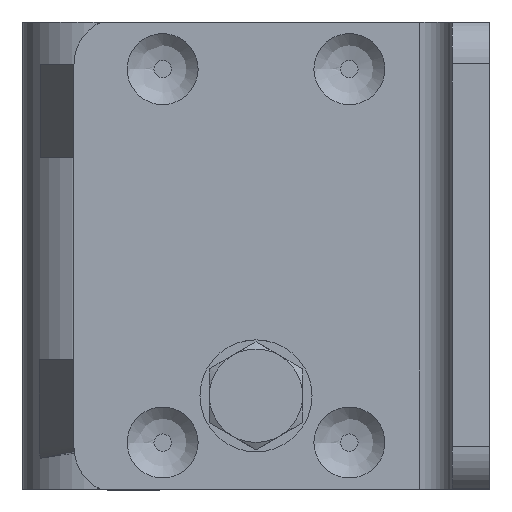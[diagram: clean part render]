
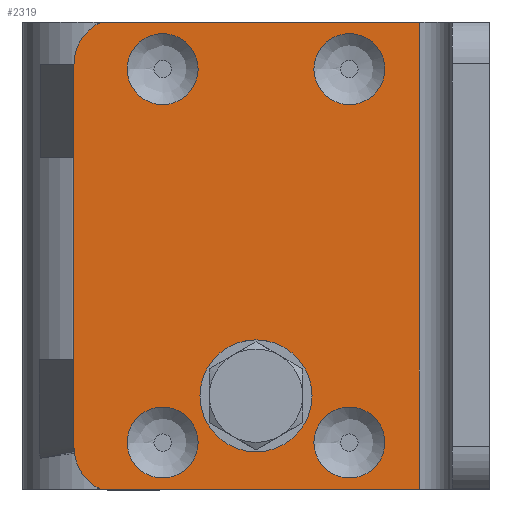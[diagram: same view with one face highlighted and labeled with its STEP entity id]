
A CAD part, top view. The second image highlights one B-rep face of the part: STEP entity #2319.
In plain terms, the highlighted planar face has unit normal (0, 0, 1).
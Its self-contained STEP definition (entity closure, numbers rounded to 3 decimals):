
#48=FACE_BOUND('',#391,.T.);
#49=FACE_BOUND('',#392,.T.);
#50=FACE_BOUND('',#393,.T.);
#51=FACE_BOUND('',#394,.T.);
#52=FACE_BOUND('',#395,.T.);
#234=FACE_OUTER_BOUND('',#390,.T.);
#390=EDGE_LOOP('',(#1700,#1701,#1702,#1703,#1704,#1705));
#391=EDGE_LOOP('',(#1706,#1707));
#392=EDGE_LOOP('',(#1708,#1709));
#393=EDGE_LOOP('',(#1710,#1711));
#394=EDGE_LOOP('',(#1712,#1713));
#395=EDGE_LOOP('',(#1714));
#572=CIRCLE('',#2491,3.8);
#573=CIRCLE('',#2492,3.8);
#575=CIRCLE('',#2495,3.8);
#576=CIRCLE('',#2496,3.8);
#578=CIRCLE('',#2499,3.8);
#579=CIRCLE('',#2500,3.8);
#581=CIRCLE('',#2503,3.8);
#582=CIRCLE('',#2504,3.8);
#588=CIRCLE('',#2517,5.);
#589=CIRCLE('',#2518,5.);
#590=CIRCLE('',#2519,6.);
#693=LINE('',#4040,#871);
#697=LINE('',#4047,#875);
#698=LINE('',#4052,#876);
#699=LINE('',#4055,#877);
#871=VECTOR('',#2894,50.);
#875=VECTOR('',#2900,34.179);
#876=VECTOR('',#2905,41.);
#877=VECTOR('',#2908,34.179);
#1060=VERTEX_POINT('',#3897);
#1061=VERTEX_POINT('',#3898);
#1063=VERTEX_POINT('',#3934);
#1064=VERTEX_POINT('',#3935);
#1066=VERTEX_POINT('',#3971);
#1067=VERTEX_POINT('',#3972);
#1069=VERTEX_POINT('',#4008);
#1070=VERTEX_POINT('',#4009);
#1075=VERTEX_POINT('',#4024);
#1078=VERTEX_POINT('',#4031);
#1081=VERTEX_POINT('',#4045);
#1082=VERTEX_POINT('',#4049);
#1083=VERTEX_POINT('',#4051);
#1084=VERTEX_POINT('',#4053);
#1085=VERTEX_POINT('',#4056);
#1283=EDGE_CURVE('',#1060,#1061,#572,.T.);
#1284=EDGE_CURVE('',#1061,#1060,#573,.T.);
#1287=EDGE_CURVE('',#1063,#1064,#575,.T.);
#1288=EDGE_CURVE('',#1064,#1063,#576,.T.);
#1291=EDGE_CURVE('',#1066,#1067,#578,.T.);
#1292=EDGE_CURVE('',#1067,#1066,#579,.T.);
#1295=EDGE_CURVE('',#1069,#1070,#581,.T.);
#1296=EDGE_CURVE('',#1070,#1069,#582,.T.);
#1309=EDGE_CURVE('',#1075,#1078,#693,.T.);
#1313=EDGE_CURVE('',#1078,#1081,#697,.T.);
#1314=EDGE_CURVE('',#1081,#1082,#588,.T.);
#1315=EDGE_CURVE('',#1082,#1083,#698,.T.);
#1316=EDGE_CURVE('',#1083,#1084,#589,.T.);
#1317=EDGE_CURVE('',#1084,#1075,#699,.T.);
#1318=EDGE_CURVE('',#1085,#1085,#590,.T.);
#1700=ORIENTED_EDGE('',*,*,#1309,.T.);
#1701=ORIENTED_EDGE('',*,*,#1313,.T.);
#1702=ORIENTED_EDGE('',*,*,#1314,.T.);
#1703=ORIENTED_EDGE('',*,*,#1315,.T.);
#1704=ORIENTED_EDGE('',*,*,#1316,.T.);
#1705=ORIENTED_EDGE('',*,*,#1317,.T.);
#1706=ORIENTED_EDGE('',*,*,#1287,.T.);
#1707=ORIENTED_EDGE('',*,*,#1288,.T.);
#1708=ORIENTED_EDGE('',*,*,#1283,.T.);
#1709=ORIENTED_EDGE('',*,*,#1284,.T.);
#1710=ORIENTED_EDGE('',*,*,#1291,.T.);
#1711=ORIENTED_EDGE('',*,*,#1292,.T.);
#1712=ORIENTED_EDGE('',*,*,#1295,.T.);
#1713=ORIENTED_EDGE('',*,*,#1296,.T.);
#1714=ORIENTED_EDGE('',*,*,#1318,.T.);
#2204=PLANE('',#2516);
#2319=ADVANCED_FACE('',(#234,#48,#49,#50,#51,#52),#2204,.T.);
#2491=AXIS2_PLACEMENT_3D('',#3899,#2840,#2841);
#2492=AXIS2_PLACEMENT_3D('',#3900,#2842,#2843);
#2495=AXIS2_PLACEMENT_3D('',#3936,#2848,#2849);
#2496=AXIS2_PLACEMENT_3D('',#3937,#2850,#2851);
#2499=AXIS2_PLACEMENT_3D('',#3973,#2856,#2857);
#2500=AXIS2_PLACEMENT_3D('',#3974,#2858,#2859);
#2503=AXIS2_PLACEMENT_3D('',#4010,#2864,#2865);
#2504=AXIS2_PLACEMENT_3D('',#4011,#2866,#2867);
#2516=AXIS2_PLACEMENT_3D('',#4048,#2901,#2902);
#2517=AXIS2_PLACEMENT_3D('',#4050,#2903,#2904);
#2518=AXIS2_PLACEMENT_3D('',#4054,#2906,#2907);
#2519=AXIS2_PLACEMENT_3D('',#4057,#2909,#2910);
#2840=DIRECTION('center_axis',(0.,0.,-1.));
#2841=DIRECTION('ref_axis',(-1.,0.,0.));
#2842=DIRECTION('center_axis',(0.,0.,-1.));
#2843=DIRECTION('ref_axis',(-1.,0.,0.));
#2848=DIRECTION('center_axis',(0.,0.,-1.));
#2849=DIRECTION('ref_axis',(-1.,0.,0.));
#2850=DIRECTION('center_axis',(0.,0.,-1.));
#2851=DIRECTION('ref_axis',(-1.,0.,0.));
#2856=DIRECTION('center_axis',(0.,0.,-1.));
#2857=DIRECTION('ref_axis',(-1.,0.,0.));
#2858=DIRECTION('center_axis',(0.,0.,-1.));
#2859=DIRECTION('ref_axis',(-1.,0.,0.));
#2864=DIRECTION('center_axis',(0.,0.,-1.));
#2865=DIRECTION('ref_axis',(-1.,0.,0.));
#2866=DIRECTION('center_axis',(0.,0.,-1.));
#2867=DIRECTION('ref_axis',(-1.,0.,0.));
#2894=DIRECTION('',(0.,1.,0.));
#2900=DIRECTION('',(-1.,0.,0.));
#2901=DIRECTION('center_axis',(0.,0.,1.));
#2902=DIRECTION('ref_axis',(1.,0.,0.));
#2903=DIRECTION('center_axis',(0.,0.,1.));
#2904=DIRECTION('ref_axis',(-0.436,0.9,0.));
#2905=DIRECTION('',(0.,-1.,0.));
#2906=DIRECTION('center_axis',(0.,0.,1.));
#2907=DIRECTION('ref_axis',(-1.,0.,0.));
#2908=DIRECTION('',(1.,0.,0.));
#2909=DIRECTION('center_axis',(0.,0.,-1.));
#2910=DIRECTION('ref_axis',(-1.,0.,0.));
#3897=CARTESIAN_POINT('',(-42.7,-20.,0.));
#3898=CARTESIAN_POINT('',(-50.3,-20.,0.));
#3899=CARTESIAN_POINT('Origin',(-46.5,-20.,0.));
#3900=CARTESIAN_POINT('Origin',(-46.5,-20.,0.));
#3934=CARTESIAN_POINT('',(-22.7,-20.,0.));
#3935=CARTESIAN_POINT('',(-30.3,-20.,0.));
#3936=CARTESIAN_POINT('Origin',(-26.5,-20.,0.));
#3937=CARTESIAN_POINT('Origin',(-26.5,-20.,0.));
#3971=CARTESIAN_POINT('',(-22.7,20.,0.));
#3972=CARTESIAN_POINT('',(-30.3,20.,0.));
#3973=CARTESIAN_POINT('Origin',(-26.5,20.,0.));
#3974=CARTESIAN_POINT('Origin',(-26.5,20.,0.));
#4008=CARTESIAN_POINT('',(-42.7,20.,0.));
#4009=CARTESIAN_POINT('',(-50.3,20.,0.));
#4010=CARTESIAN_POINT('Origin',(-46.5,20.,0.));
#4011=CARTESIAN_POINT('Origin',(-46.5,20.,0.));
#4024=CARTESIAN_POINT('',(-19.,-25.,0.));
#4031=CARTESIAN_POINT('',(-19.,25.,0.));
#4040=CARTESIAN_POINT('',(-19.,12.5,0.));
#4045=CARTESIAN_POINT('',(-53.179,25.,0.));
#4047=CARTESIAN_POINT('',(11.179,25.,0.));
#4048=CARTESIAN_POINT('Origin',(-21.,0.,0.));
#4049=CARTESIAN_POINT('',(-56.,20.5,0.));
#4050=CARTESIAN_POINT('Origin',(-51.,20.5,0.));
#4051=CARTESIAN_POINT('',(-56.,-20.5,0.));
#4052=CARTESIAN_POINT('',(-56.,20.5,0.));
#4053=CARTESIAN_POINT('',(-53.179,-25.,0.));
#4054=CARTESIAN_POINT('Origin',(-51.,-20.5,0.));
#4055=CARTESIAN_POINT('',(-53.179,-25.,0.));
#4056=CARTESIAN_POINT('',(-30.5,-15.,0.));
#4057=CARTESIAN_POINT('Origin',(-36.5,-15.,0.));
